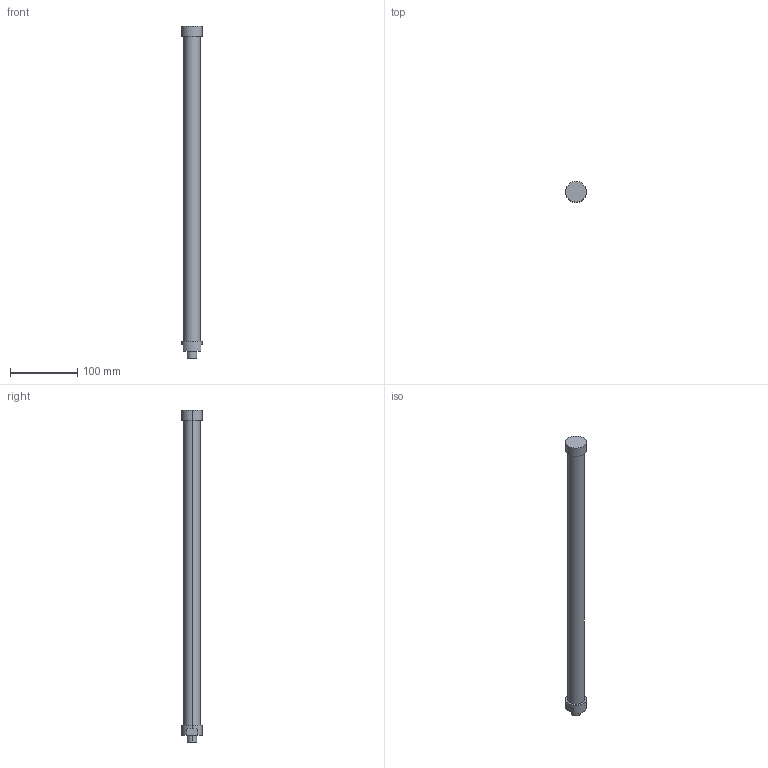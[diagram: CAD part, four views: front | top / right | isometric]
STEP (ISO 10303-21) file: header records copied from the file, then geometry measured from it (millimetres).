
FILE_DESCRIPTION(('STEP AP214'),'1');
FILE_NAME('C:/Users/Autocad/Desktop/L494-C270S1-FN.stp','2014-02-10T10:54:11',(' '),(' '),'Spatial InterOp 3D',' ',' ');
FILE_SCHEMA(('automotive_design'));
Length unit declared in the file: metre
Products named in the file (2): 1; 2
Bounding box: 31 x 31 x 494 mm (x, y, z)
Volume: 246070.8 mm3; surface area: 41624 mm2
Topology: 1 solids, 4 shells, 23 faces, 54 edges, 40 vertices
Faces by surface type: cylinder 12, plane 11
Entity records: 916 total; most frequent: DIRECTION 136, CARTESIAN_POINT 119, ORIENTED_EDGE 96, AXIS2_PLACEMENT_3D 57, EDGE_CURVE 54, VERTEX_POINT 40, CIRCLE 32, EDGE_LOOP 28
